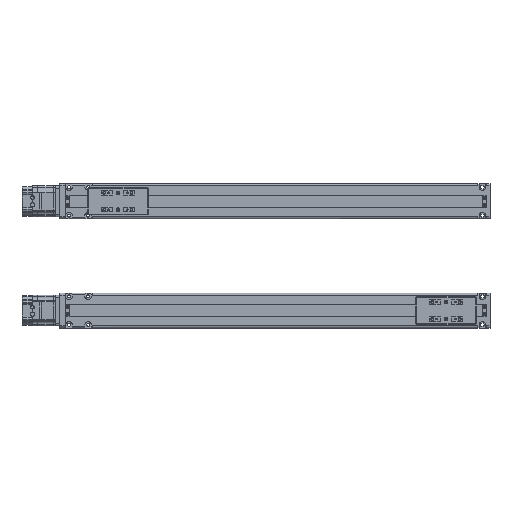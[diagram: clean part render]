
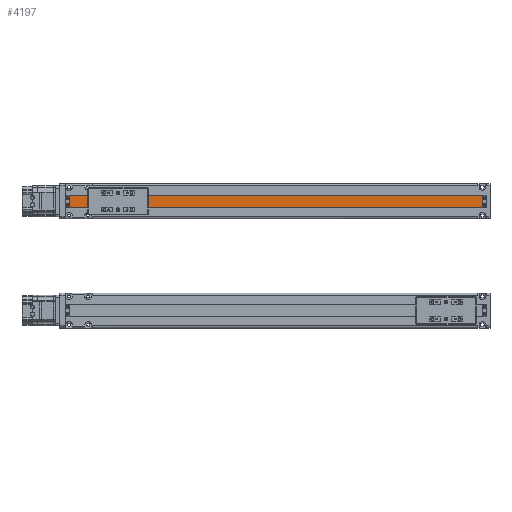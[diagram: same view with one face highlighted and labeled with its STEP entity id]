
A CAD part, top view. The second image highlights one B-rep face of the part: STEP entity #4197.
In plain terms, the highlighted planar face has unit normal (0, 0, 1).
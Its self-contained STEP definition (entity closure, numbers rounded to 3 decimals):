
#4197=ADVANCED_FACE('',(#9065),#9066,.T.);
#9065=FACE_OUTER_BOUND('',#16201,.T.);
#9066=PLANE('',#16202);
#16201=EDGE_LOOP('',(#28989,#28990,#28991,#28992));
#16202=AXIS2_PLACEMENT_3D('',#28993,#28994,#28995);
#28989=ORIENTED_EDGE('',*,*,#39040,.T.);
#28990=ORIENTED_EDGE('',*,*,#37916,.T.);
#28991=ORIENTED_EDGE('',*,*,#39993,.T.);
#28992=ORIENTED_EDGE('',*,*,#39994,.T.);
#28993=CARTESIAN_POINT('',(768.5,10.0,19.1));
#28994=DIRECTION('',(-0.0,0.,1.0));
#28995=DIRECTION('',(1.0,0.0,0.0));
#37916=EDGE_CURVE('',#46222,#46223,#46224,.T.);
#39040=EDGE_CURVE('',#47848,#46222,#47849,.T.);
#39993=EDGE_CURVE('',#46223,#49094,#49095,.T.);
#39994=EDGE_CURVE('',#49094,#47848,#49096,.T.);
#46222=VERTEX_POINT('',#57358);
#46223=VERTEX_POINT('',#57359);
#46224=LINE('',#57360,#57361);
#47848=VERTEX_POINT('',#59711);
#47849=LINE('',#59712,#59713);
#49094=VERTEX_POINT('',#61590);
#49095=LINE('',#61591,#61592);
#49096=LINE('',#61593,#61594);
#57358=CARTESIAN_POINT('',(733.5,21.0,19.1));
#57359=CARTESIAN_POINT('',(733.5,-1.0,19.1));
#57360=CARTESIAN_POINT('',(733.5,10.0,19.1));
#57361=VECTOR('',#67252,1000.0);
#59711=CARTESIAN_POINT('',(1490.5,21.0,19.1));
#59712=CARTESIAN_POINT('',(1496.5,21.0,19.1));
#59713=VECTOR('',#68569,1000.0);
#61590=CARTESIAN_POINT('',(1490.5,-1.0,19.1));
#61591=CARTESIAN_POINT('',(728.5,-1.0,19.1));
#61592=VECTOR('',#69520,1000.0);
#61593=CARTESIAN_POINT('',(1490.5,10.0,19.1));
#61594=VECTOR('',#69521,1000.0);
#67252=DIRECTION('',(0.0,-1.0,0.));
#68569=DIRECTION('',(-1.0,0.0,0.0));
#69520=DIRECTION('',(1.0,0.0,0.0));
#69521=DIRECTION('',(0.0,1.0,0.));
